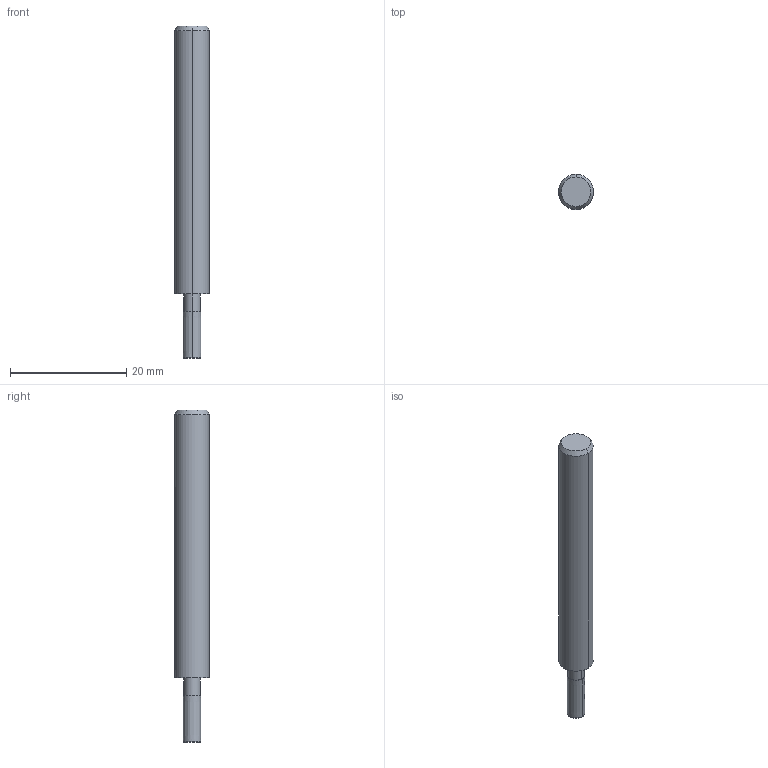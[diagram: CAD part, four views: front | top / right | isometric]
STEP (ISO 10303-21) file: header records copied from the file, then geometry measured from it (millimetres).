
FILE_DESCRIPTION(('no description'),'unknown implementation level');
FILE_NAME('solidZq9P28GZY7OnJix_cRbK7jjqZ94_1.STP',' ',('CIMSOURCE GmbH'),('CADClick - KiM GmbH - www.kimweb.de'),'unknown preprocess','ACIS','unknown authorization');
FILE_SCHEMA(('automotive_design'));
Length unit declared in the file: millimetre
Products named in the file (2): 1; 2
Bounding box: 6 x 6 x 57 mm (x, y, z)
Volume: 1372.1 mm3; surface area: 1033.3 mm2
Topology: 2 solids, 2 shells, 29 faces, 71 edges, 46 vertices
Faces by surface type: plane 12, cylinder 11, cone 4, torus 2
Entity records: 1933 total; most frequent: CARTESIAN_POINT 367, DIRECTION 152, STYLED_ITEM 148, PRESENTATION_STYLE_ASSIGNMENT 148, COLOUR_RGB 148, ORIENTED_EDGE 142, EDGE_CURVE 71, CURVE_STYLE 71
